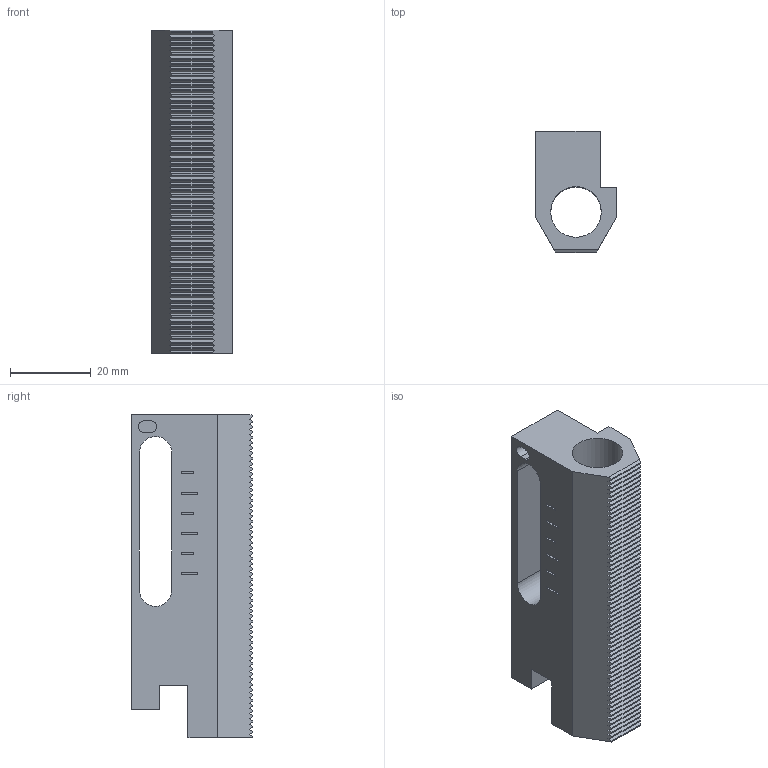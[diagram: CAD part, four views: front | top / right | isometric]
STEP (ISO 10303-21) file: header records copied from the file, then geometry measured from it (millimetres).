
FILE_DESCRIPTION(/* description */ (''),/* implementation_level */ '2;1');
FILE_NAME(/* name */ '',/* time_stamp */ '2024-10-21T15:02:02+03:00',/* author */ ('p.balykov'),/* organization */ (''),/* preprocessor_version */ 'ST-DEVELOPER v20',/* originating_system */ 'Autodesk Inventor 2025',/* authorisation */ '');
FILE_SCHEMA (('AUTOMOTIVE_DESIGN { 1 0 10303 214 3 1 1 }'));
Length unit declared in the file: millimetre
Products named in the file (1): 2024_4.1.1 Сварочная 
губка_MIR
Bounding box: 20 x 30 x 80 mm (x, y, z)
Volume: 22187.3 mm3; surface area: 12682.9 mm2
Topology: 1 solids, 1 shells, 243 faces, 706 edges, 470 vertices
Faces by surface type: plane 235, cylinder 7, cone 1
Full cylindrical faces by diameter (mm): 2.459 x1, 3.1 x1, 12.5 x1
Entity records: 8180 total; most frequent: CARTESIAN_POINT 1454, ORIENTED_EDGE 1410, DIRECTION 1204, EDGE_CURVE 705, LINE 688, VECTOR 688, VERTEX_POINT 470, AXIS2_PLACEMENT_3D 258
